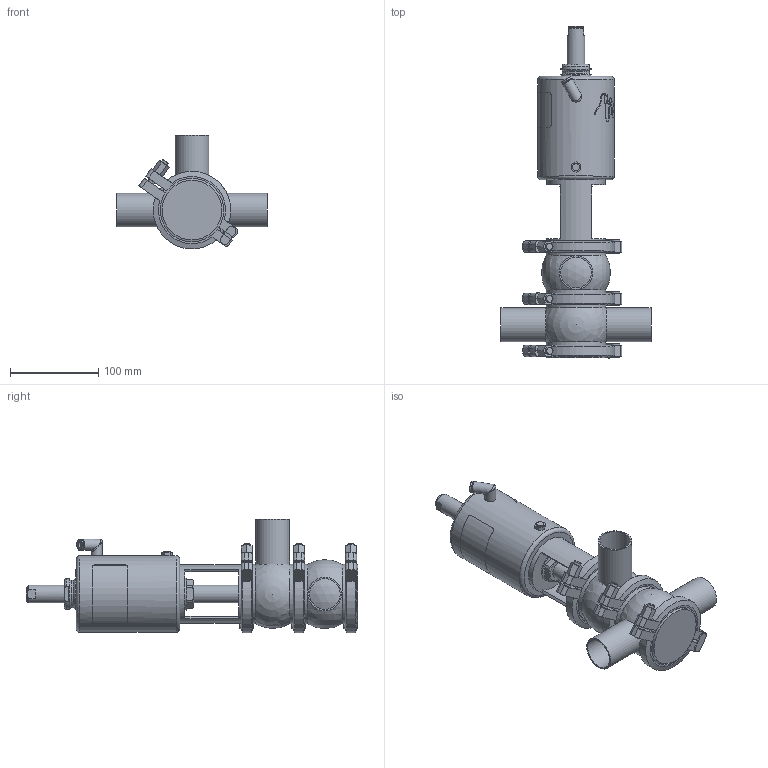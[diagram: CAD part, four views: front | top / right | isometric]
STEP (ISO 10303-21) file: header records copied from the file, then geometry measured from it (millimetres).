
FILE_DESCRIPTION (( 'STEP AP214' ), '1' );
FILE_NAME ('INNOVA M B W OD 1½ T1 AS NC_10.241.16.0004.STEP', '2024-08-07T13:07:53', ( '' ), ( '' ), 'SwSTEP 2.0', 'SolidWorks 2023', '' );
FILE_SCHEMA (( 'AUTOMOTIVE_DESIGN' ));
Length unit declared in the file: millimetre
Products named in the file (7): INNOVA M B W OD 1½ T1 AS NC_10.241.16.0004; 10.240.15.0010_DN 040; 10.240.15.0001_DN 040; 10.241.15.0001_DIN 040; 10.240.15.0007_OD 1½"; 10.240.15.0014_T1 AS P180; 10.240.15.0006_OD 1½"
Assembly tree (8 placements, depth 2):
  INNOVA M B W OD 1½ T1 AS NC_10.241.16.0004
    10.240.15.0006_OD 1½"
    10.240.15.0007_OD 1½"
    10.240.15.0010_DN 040
    10.240.15.0014_T1 AS P180
    10.240.15.0001_DN 040  x3
    10.241.15.0001_DIN 040
Bounding box: 170 x 376.07 x 129 mm (x, y, z)
Volume: 1467761.6 mm3; surface area: 227784.5 mm2
Topology: 9 solids, 9 shells, 463 faces, 1215 edges, 792 vertices
Faces by surface type: plane 226, cylinder 112, bspline 80, cone 36, sphere 5, torus 4
Full cylindrical faces by diameter (mm): 6.15 x1, 8 x7, 8.5 x1, 10.5 x1, 12.5 x3, 16 x1, 20 x2, 31 x1, 34.5 x2, 34.8 x3, 36.5 x1, 38.1 x3, 66 x1, 67.5 x5, 79.5 x6, 87 x1
Entity records: 19637 total; most frequent: CARTESIAN_POINT 10222, ORIENTED_EDGE 1624, DIRECTION 1271, EDGE_CURVE 812, VERTEX_POINT 563, AXIS2_PLACEMENT_3D 491, EDGE_LOOP 431, FACE_OUTER_BOUND 386
